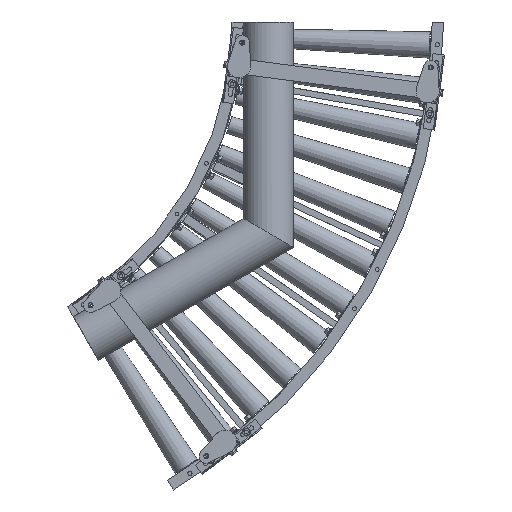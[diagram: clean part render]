
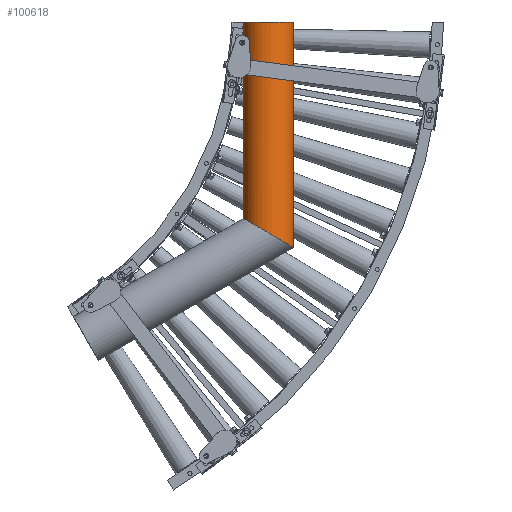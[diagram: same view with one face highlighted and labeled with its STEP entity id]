
A CAD part, front view. The second image highlights one B-rep face of the part: STEP entity #100618.
In plain terms, the highlighted cylindrical face has radius 67.024 mm (diameter 134.048 mm), a partial arc.
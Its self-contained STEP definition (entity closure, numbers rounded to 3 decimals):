
#2247 = VECTOR ( 'NONE', #87347, 1000. ) ;
#4082 = VERTEX_POINT ( 'NONE', #11458 ) ;
#5412 = DIRECTION ( 'NONE',  ( -1., 0., 0. ) ) ;
#10900 = VERTEX_POINT ( 'NONE', #83615 ) ;
#11458 = CARTESIAN_POINT ( 'NONE',  ( 900.7, -166.5, -520.019 ) ) ;
#13913 = ORIENTED_EDGE ( 'NONE', *, *, #63525, .F. ) ;
#19693 = EDGE_LOOP ( 'NONE', ( #13913, #102630, #42578, #45978 ) ) ;
#24350 = DIRECTION ( 'NONE',  ( 0., 0., 1. ) ) ;
#37237 = LINE ( 'NONE', #67347, #2247 ) ;
#38131 = CARTESIAN_POINT ( 'NONE',  ( 1018.27, -267.933, -587.899 ) ) ;
#42578 = ORIENTED_EDGE ( 'NONE', *, *, #76209, .T. ) ;
#42740 = CARTESIAN_POINT ( 'NONE',  ( 967., -156.676, 0. ) ) ;
#45978 = ORIENTED_EDGE ( 'NONE', *, *, #73889, .F. ) ;
#54879 = AXIS2_PLACEMENT_3D ( 'NONE', #42740, #24350, #118690 ) ;
#60086 = VERTEX_POINT ( 'NONE', #65784 ) ;
#60287 = CYLINDRICAL_SURFACE ( 'NONE', #104667, 67.024 ) ;
#61747 = CARTESIAN_POINT ( 'NONE',  ( 967., -156.676, 0. ) ) ;
#63525 = EDGE_CURVE ( 'NONE', #10900, #60086, #37237, .T. ) ;
#65784 = CARTESIAN_POINT ( 'NONE',  ( 1033.3, -166.5, -596.576 ) ) ;
#67347 = CARTESIAN_POINT ( 'NONE',  ( 1033.3, -166.5, 0. ) ) ;
#73889 = EDGE_CURVE ( 'NONE', #60086, #4082, #102399, .T. ) ;
#75180 = EDGE_CURVE ( 'NONE', #118618, #10900, #82820, .T. ) ;
#76209 = EDGE_CURVE ( 'NONE', #118618, #4082, #86800, .T. ) ;
#79306 = DIRECTION ( 'NONE',  ( 0., 0., -1. ) ) ;
#82820 = CIRCLE ( 'NONE', #54879, 67.024 ) ;
#83615 = CARTESIAN_POINT ( 'NONE',  ( 1033.3, -166.5, 0. ) ) ;
#86040 = CARTESIAN_POINT ( 'NONE',  ( 900.7, -166.5, 0. ) ) ;
#86446 = DIRECTION ( 'NONE',  ( 0., 0., -1. ) ) ;
#86800 = LINE ( 'NONE', #86040, #101278 ) ;
#87347 = DIRECTION ( 'NONE',  ( 0., 0., -1. ) ) ;
#99645 = FACE_OUTER_BOUND ( 'NONE', #19693, .T. ) ;
#100618 = ADVANCED_FACE ( 'NONE', ( #99645 ), #60287, .T. ) ;
#101278 = VECTOR ( 'NONE', #86446, 1000. ) ;
#102399 =( BOUNDED_CURVE ( )  B_SPLINE_CURVE ( 3, ( #113651, #38131, #103816, #112825 ),
 .UNSPECIFIED., .F., .F. ) 
 B_SPLINE_CURVE_WITH_KNOTS ( ( 4, 4 ),
 ( 0.147, 2.994 ),
 .UNSPECIFIED. ) 
 CURVE ( )  GEOMETRIC_REPRESENTATION_ITEM ( )  RATIONAL_B_SPLINE_CURVE ( ( 1., 0.431, 0.431, 1. ) ) 
 REPRESENTATION_ITEM ( '' )  );
#102590 = CARTESIAN_POINT ( 'NONE',  ( 900.7, -166.5, 0. ) ) ;
#102630 = ORIENTED_EDGE ( 'NONE', *, *, #75180, .F. ) ;
#103816 = CARTESIAN_POINT ( 'NONE',  ( 915.73, -267.933, -528.697 ) ) ;
#104667 = AXIS2_PLACEMENT_3D ( 'NONE', #61747, #79306, #5412 ) ;
#112825 = CARTESIAN_POINT ( 'NONE',  ( 900.7, -166.5, -520.019 ) ) ;
#113651 = CARTESIAN_POINT ( 'NONE',  ( 1033.3, -166.5, -596.576 ) ) ;
#118618 = VERTEX_POINT ( 'NONE', #102590 ) ;
#118690 = DIRECTION ( 'NONE',  ( 1., 0., 0. ) ) ;
